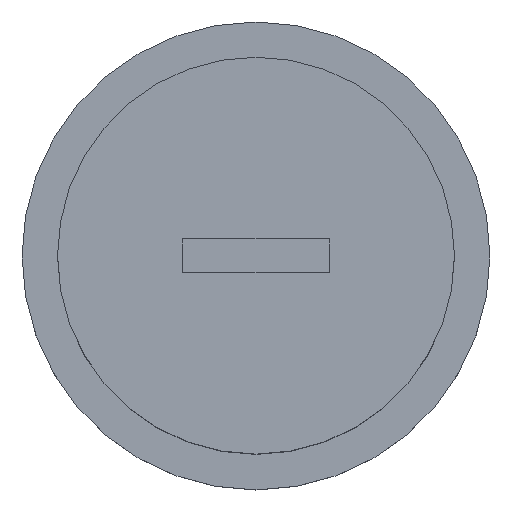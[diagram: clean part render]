
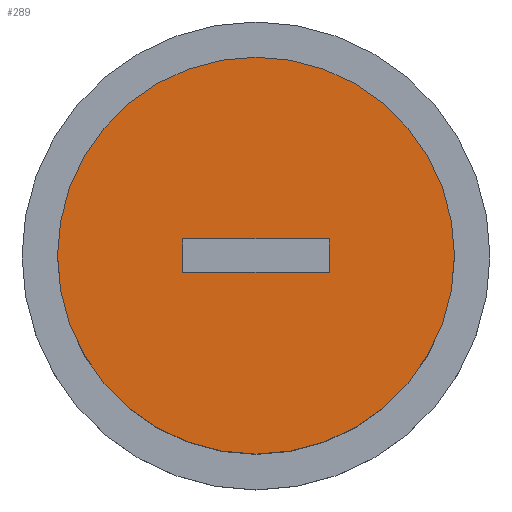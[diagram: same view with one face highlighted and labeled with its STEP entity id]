
A CAD part, top view. The second image highlights one B-rep face of the part: STEP entity #289.
In plain terms, the highlighted planar face has unit normal (0, 0, 1).
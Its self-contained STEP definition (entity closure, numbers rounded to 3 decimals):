
#164 = CYLINDRICAL_SURFACE('',#165,4.75);
#165 = AXIS2_PLACEMENT_3D('',#166,#167,#168);
#166 = CARTESIAN_POINT('',(-16.,-28.,-3.4));
#167 = DIRECTION('',(-0.,-0.,-1.));
#168 = DIRECTION('',(1.,0.,0.));
#235 = VERTEX_POINT('',#236);
#236 = CARTESIAN_POINT('',(-11.25,-28.,0.8));
#257 = EDGE_CURVE('',#235,#235,#258,.T.);
#258 = SURFACE_CURVE('',#259,(#264,#271),.PCURVE_S1.);
#259 = CIRCLE('',#260,4.75);
#260 = AXIS2_PLACEMENT_3D('',#261,#262,#263);
#261 = CARTESIAN_POINT('',(-16.,-28.,0.8));
#262 = DIRECTION('',(0.,0.,1.));
#263 = DIRECTION('',(1.,0.,0.));
#264 = PCURVE('',#164,#265);
#265 = DEFINITIONAL_REPRESENTATION('',(#266),#270);
#266 = LINE('',#267,#268);
#267 = CARTESIAN_POINT('',(-0.,-4.2));
#268 = VECTOR('',#269,1.);
#269 = DIRECTION('',(-1.,0.));
#270 = ( GEOMETRIC_REPRESENTATION_CONTEXT(2) 
PARAMETRIC_REPRESENTATION_CONTEXT() REPRESENTATION_CONTEXT('2D SPACE',''
  ) );
#271 = PCURVE('',#272,#277);
#272 = PLANE('',#273);
#273 = AXIS2_PLACEMENT_3D('',#274,#275,#276);
#274 = CARTESIAN_POINT('',(-16.,-28.,0.8));
#275 = DIRECTION('',(0.,0.,1.));
#276 = DIRECTION('',(1.,0.,-0.));
#277 = DEFINITIONAL_REPRESENTATION('',(#278),#282);
#278 = CIRCLE('',#279,4.75);
#279 = AXIS2_PLACEMENT_2D('',#280,#281);
#280 = CARTESIAN_POINT('',(0.,0.));
#281 = DIRECTION('',(1.,0.));
#282 = ( GEOMETRIC_REPRESENTATION_CONTEXT(2) 
PARAMETRIC_REPRESENTATION_CONTEXT() REPRESENTATION_CONTEXT('2D SPACE',''
  ) );
#289 = ADVANCED_FACE('',(#290,#293),#272,.T.);
#290 = FACE_BOUND('',#291,.T.);
#291 = EDGE_LOOP('',(#292));
#292 = ORIENTED_EDGE('',*,*,#257,.T.);
#293 = FACE_BOUND('',#294,.T.);
#294 = EDGE_LOOP('',(#295,#323,#349,#375));
#295 = ORIENTED_EDGE('',*,*,#296,.T.);
#296 = EDGE_CURVE('',#297,#299,#301,.T.);
#297 = VERTEX_POINT('',#298);
#298 = CARTESIAN_POINT('',(-14.25,-28.4,0.8));
#299 = VERTEX_POINT('',#300);
#300 = CARTESIAN_POINT('',(-17.75,-28.4,0.8));
#301 = SURFACE_CURVE('',#302,(#306,#312),.PCURVE_S1.);
#302 = LINE('',#303,#304);
#303 = CARTESIAN_POINT('',(-16.875,-28.4,0.8));
#304 = VECTOR('',#305,1.);
#305 = DIRECTION('',(-1.,0.,0.));
#306 = PCURVE('',#272,#307);
#307 = DEFINITIONAL_REPRESENTATION('',(#308),#311);
#308 = B_SPLINE_CURVE_WITH_KNOTS('',1,(#309,#310),.UNSPECIFIED.,.F.,.F.,
  (2,2),(-2.625,0.875),.PIECEWISE_BEZIER_KNOTS.);
#309 = CARTESIAN_POINT('',(1.75,-0.4));
#310 = CARTESIAN_POINT('',(-1.75,-0.4));
#311 = ( GEOMETRIC_REPRESENTATION_CONTEXT(2) 
PARAMETRIC_REPRESENTATION_CONTEXT() REPRESENTATION_CONTEXT('2D SPACE',''
  ) );
#312 = PCURVE('',#313,#318);
#313 = PLANE('',#314);
#314 = AXIS2_PLACEMENT_3D('',#315,#316,#317);
#315 = CARTESIAN_POINT('',(-17.75,-28.4,0.5));
#316 = DIRECTION('',(0.,1.,0.));
#317 = DIRECTION('',(0.,0.,1.));
#318 = DEFINITIONAL_REPRESENTATION('',(#319),#322);
#319 = B_SPLINE_CURVE_WITH_KNOTS('',1,(#320,#321),.UNSPECIFIED.,.F.,.F.,
  (2,2),(-2.625,0.875),.PIECEWISE_BEZIER_KNOTS.);
#320 = CARTESIAN_POINT('',(0.3,3.5));
#321 = CARTESIAN_POINT('',(0.3,0.));
#322 = ( GEOMETRIC_REPRESENTATION_CONTEXT(2) 
PARAMETRIC_REPRESENTATION_CONTEXT() REPRESENTATION_CONTEXT('2D SPACE',''
  ) );
#323 = ORIENTED_EDGE('',*,*,#324,.T.);
#324 = EDGE_CURVE('',#299,#325,#327,.T.);
#325 = VERTEX_POINT('',#326);
#326 = CARTESIAN_POINT('',(-17.75,-27.6,0.8));
#327 = SURFACE_CURVE('',#328,(#332,#338),.PCURVE_S1.);
#328 = LINE('',#329,#330);
#329 = CARTESIAN_POINT('',(-17.75,-28.2,0.8));
#330 = VECTOR('',#331,1.);
#331 = DIRECTION('',(0.,1.,0.));
#332 = PCURVE('',#272,#333);
#333 = DEFINITIONAL_REPRESENTATION('',(#334),#337);
#334 = B_SPLINE_CURVE_WITH_KNOTS('',1,(#335,#336),.UNSPECIFIED.,.F.,.F.,
  (2,2),(-0.2,0.6),.PIECEWISE_BEZIER_KNOTS.);
#335 = CARTESIAN_POINT('',(-1.75,-0.4));
#336 = CARTESIAN_POINT('',(-1.75,0.4));
#337 = ( GEOMETRIC_REPRESENTATION_CONTEXT(2) 
PARAMETRIC_REPRESENTATION_CONTEXT() REPRESENTATION_CONTEXT('2D SPACE',''
  ) );
#338 = PCURVE('',#339,#344);
#339 = PLANE('',#340);
#340 = AXIS2_PLACEMENT_3D('',#341,#342,#343);
#341 = CARTESIAN_POINT('',(-17.75,-28.4,0.5));
#342 = DIRECTION('',(1.,0.,0.));
#343 = DIRECTION('',(0.,0.,1.));
#344 = DEFINITIONAL_REPRESENTATION('',(#345),#348);
#345 = B_SPLINE_CURVE_WITH_KNOTS('',1,(#346,#347),.UNSPECIFIED.,.F.,.F.,
  (2,2),(-0.2,0.6),.PIECEWISE_BEZIER_KNOTS.);
#346 = CARTESIAN_POINT('',(0.3,0.));
#347 = CARTESIAN_POINT('',(0.3,-0.8));
#348 = ( GEOMETRIC_REPRESENTATION_CONTEXT(2) 
PARAMETRIC_REPRESENTATION_CONTEXT() REPRESENTATION_CONTEXT('2D SPACE',''
  ) );
#349 = ORIENTED_EDGE('',*,*,#350,.F.);
#350 = EDGE_CURVE('',#351,#325,#353,.T.);
#351 = VERTEX_POINT('',#352);
#352 = CARTESIAN_POINT('',(-14.25,-27.6,0.8));
#353 = SURFACE_CURVE('',#354,(#358,#364),.PCURVE_S1.);
#354 = LINE('',#355,#356);
#355 = CARTESIAN_POINT('',(-16.875,-27.6,0.8));
#356 = VECTOR('',#357,1.);
#357 = DIRECTION('',(-1.,0.,0.));
#358 = PCURVE('',#272,#359);
#359 = DEFINITIONAL_REPRESENTATION('',(#360),#363);
#360 = B_SPLINE_CURVE_WITH_KNOTS('',1,(#361,#362),.UNSPECIFIED.,.F.,.F.,
  (2,2),(-2.625,0.875),.PIECEWISE_BEZIER_KNOTS.);
#361 = CARTESIAN_POINT('',(1.75,0.4));
#362 = CARTESIAN_POINT('',(-1.75,0.4));
#363 = ( GEOMETRIC_REPRESENTATION_CONTEXT(2) 
PARAMETRIC_REPRESENTATION_CONTEXT() REPRESENTATION_CONTEXT('2D SPACE',''
  ) );
#364 = PCURVE('',#365,#370);
#365 = PLANE('',#366);
#366 = AXIS2_PLACEMENT_3D('',#367,#368,#369);
#367 = CARTESIAN_POINT('',(-17.75,-27.6,0.5));
#368 = DIRECTION('',(0.,1.,0.));
#369 = DIRECTION('',(0.,0.,1.));
#370 = DEFINITIONAL_REPRESENTATION('',(#371),#374);
#371 = B_SPLINE_CURVE_WITH_KNOTS('',1,(#372,#373),.UNSPECIFIED.,.F.,.F.,
  (2,2),(-2.625,0.875),.PIECEWISE_BEZIER_KNOTS.);
#372 = CARTESIAN_POINT('',(0.3,3.5));
#373 = CARTESIAN_POINT('',(0.3,0.));
#374 = ( GEOMETRIC_REPRESENTATION_CONTEXT(2) 
PARAMETRIC_REPRESENTATION_CONTEXT() REPRESENTATION_CONTEXT('2D SPACE',''
  ) );
#375 = ORIENTED_EDGE('',*,*,#376,.F.);
#376 = EDGE_CURVE('',#297,#351,#377,.T.);
#377 = SURFACE_CURVE('',#378,(#382,#388),.PCURVE_S1.);
#378 = LINE('',#379,#380);
#379 = CARTESIAN_POINT('',(-14.25,-28.2,0.8));
#380 = VECTOR('',#381,1.);
#381 = DIRECTION('',(0.,1.,0.));
#382 = PCURVE('',#272,#383);
#383 = DEFINITIONAL_REPRESENTATION('',(#384),#387);
#384 = B_SPLINE_CURVE_WITH_KNOTS('',1,(#385,#386),.UNSPECIFIED.,.F.,.F.,
  (2,2),(-0.2,0.6),.PIECEWISE_BEZIER_KNOTS.);
#385 = CARTESIAN_POINT('',(1.75,-0.4));
#386 = CARTESIAN_POINT('',(1.75,0.4));
#387 = ( GEOMETRIC_REPRESENTATION_CONTEXT(2) 
PARAMETRIC_REPRESENTATION_CONTEXT() REPRESENTATION_CONTEXT('2D SPACE',''
  ) );
#388 = PCURVE('',#389,#394);
#389 = PLANE('',#390);
#390 = AXIS2_PLACEMENT_3D('',#391,#392,#393);
#391 = CARTESIAN_POINT('',(-14.25,-28.4,0.5));
#392 = DIRECTION('',(1.,0.,0.));
#393 = DIRECTION('',(0.,0.,1.));
#394 = DEFINITIONAL_REPRESENTATION('',(#395),#398);
#395 = B_SPLINE_CURVE_WITH_KNOTS('',1,(#396,#397),.UNSPECIFIED.,.F.,.F.,
  (2,2),(-0.2,0.6),.PIECEWISE_BEZIER_KNOTS.);
#396 = CARTESIAN_POINT('',(0.3,0.));
#397 = CARTESIAN_POINT('',(0.3,-0.8));
#398 = ( GEOMETRIC_REPRESENTATION_CONTEXT(2) 
PARAMETRIC_REPRESENTATION_CONTEXT() REPRESENTATION_CONTEXT('2D SPACE',''
  ) );
